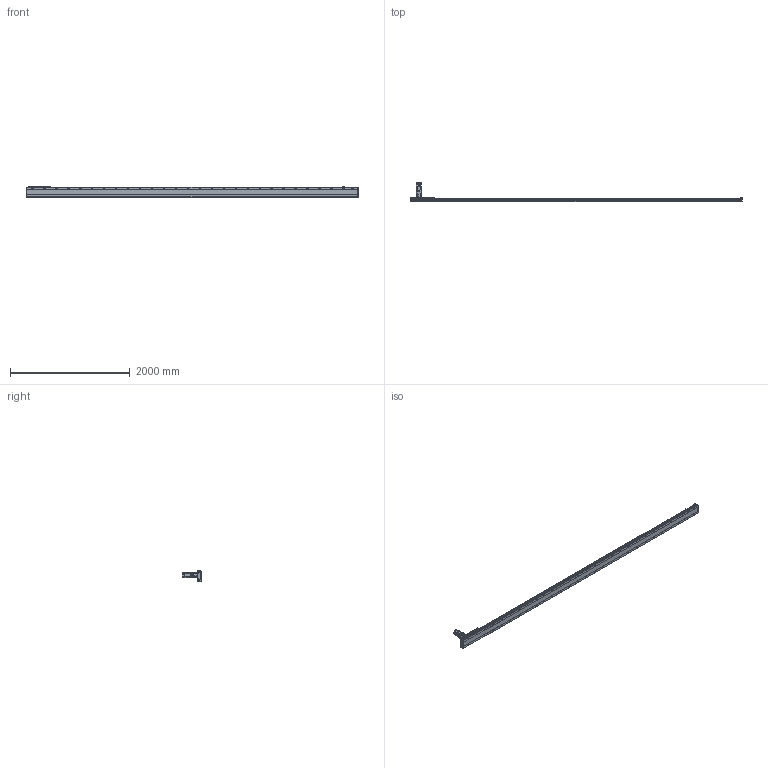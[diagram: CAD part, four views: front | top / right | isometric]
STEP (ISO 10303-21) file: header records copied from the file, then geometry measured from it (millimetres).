
FILE_DESCRIPTION(/* description */ ('STEP AP203'),/* implementation_level */ '2;1');
FILE_NAME(/* name */ 'SHS17A-L13-S5100-BC-T75-C1-N(0)',/* time_stamp */ '2023-03-27T08:59:27+02:00',/* author */ ('License CC BY-ND 4.0'),/* organization */ ('CADENAS'),/* preprocessor_version */ 'ST-DEVELOPER v19.3',/* originating_system */ 'PARTsolutions',/* authorisation */ ' ');
FILE_SCHEMA (('CONFIG_CONTROL_DESIGN'));
Length unit declared in the file: millimetre
Products named in the file (7): SHS17A-L13-S5100-BC-T75-C1-N(0); PSC140-sensor; SHS17A-S5100(0)_body2; T75-p1; SHS17A-S5100_body3; SHS17A-S5100-C1(0)_slider; SHS17A-S5100-C1(0)_body
Assembly tree (13 placements, depth 2):
  SHS17A-L13-S5100-BC-T75-C1-N(0)
    PSC140-sensor  x3
    SHS17A-S5100(0)_body2  x6
    T75-p1
    SHS17A-S5100_body3
    SHS17A-S5100-C1(0)_slider
    SHS17A-S5100-C1(0)_body
Bounding box: 5554 x 333.8 x 193.4 mm (x, y, z)
Volume: 37133352.4 mm3; surface area: 4228811 mm2
Topology: 13 solids, 13 shells, 2552 faces, 6531 edges, 4250 vertices
Faces by surface type: plane 1533, cylinder 906, cone 110, torus 3
Full cylindrical faces by diameter (mm): 2.8 x3, 4.134 x24, 4.5 x2, 4.6 x3, 4.917 x15, 5.5 x48, 6 x7, 6.5 x24, 6.647 x64, 6.8 x9, 8 x3, 8.5 x56, 10 x28, 11 x4, 14 x56, 22 x1, 24 x1, 24.2 x1, 28 x1, 28.2 x1, 28.8 x1, 29.8 x1, 48.542 x1, 68 x1, 70 x1, 78 x1, 80 x2
Entity records: 53612 total; most frequent: CARTESIAN_POINT 10928, DIRECTION 8623, ORIENTED_EDGE 8396, EDGE_CURVE 4198, AXIS2_PLACEMENT_3D 3106, VERTEX_POINT 2959, EDGE_LOOP 2515, FACE_BOUND 2515
